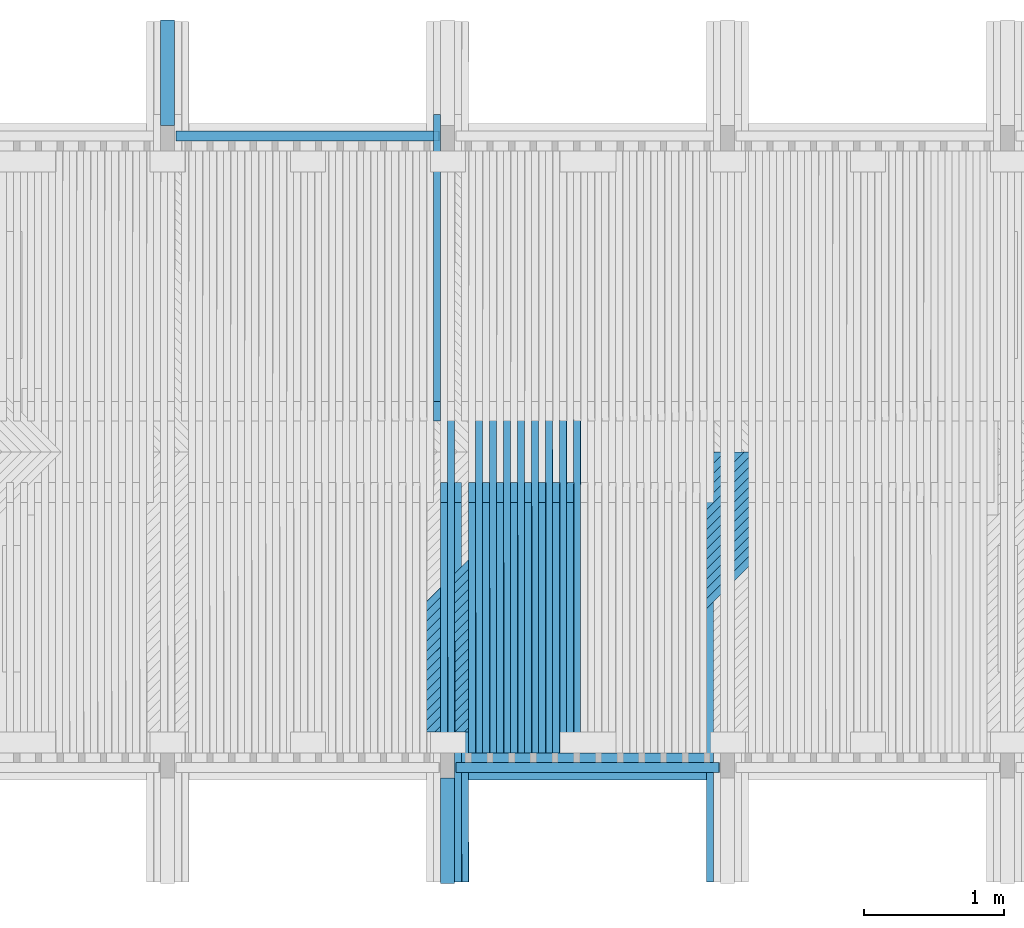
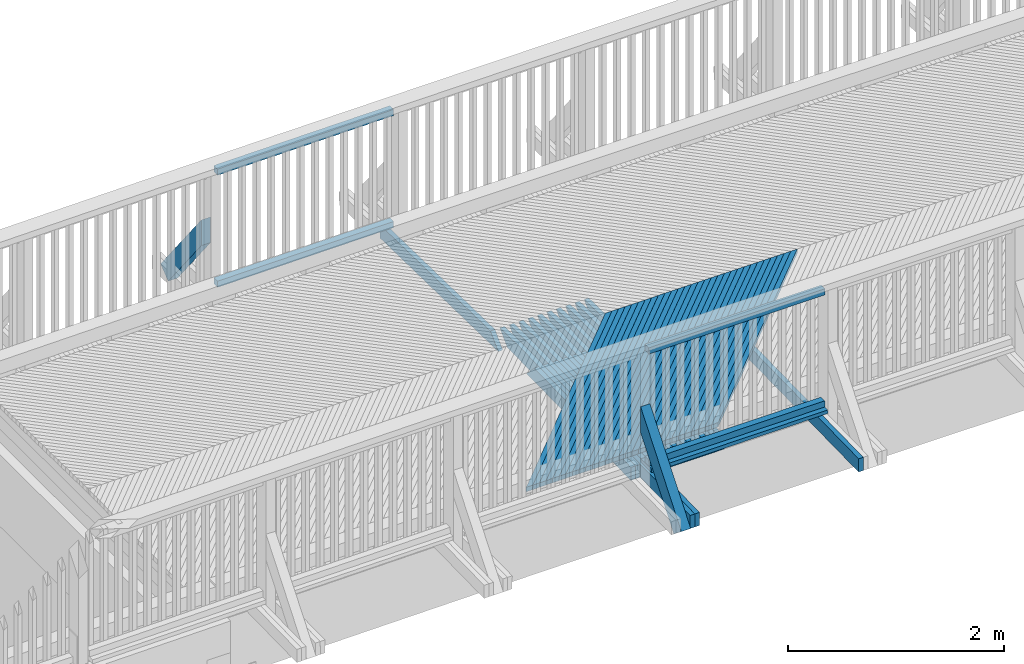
# One storey, part 22 of 53: 56 beams, 2 members.
"""IFC2X3 building model written with IfcOpenShell, lengths in millimetres."""

from ifc_helpers import new_model, si_unit, frame, origin_with_axes, place, context, subcontext, project, spatial, faceted_brep, material, type_object, element, save


model = new_model("IFC2X3")

# Units and contexts
model_context = context("Model", 3, precision=1e-05, world=origin_with_axes())
body_context = subcontext(model_context, "Body", "Model", "MODEL_VIEW")
ifc_project = project(units=[si_unit("LENGTHUNIT", "METRE", prefix="MILLI"), si_unit("AREAUNIT", "SQUARE_METRE"), si_unit("VOLUMEUNIT", "CUBIC_METRE"), si_unit("MASSUNIT", "GRAM", prefix="KILO"), si_unit("TIMEUNIT", "SECOND"), si_unit("PLANEANGLEUNIT", "RADIAN"), si_unit("SOLIDANGLEUNIT", "STERADIAN"), si_unit("THERMODYNAMICTEMPERATUREUNIT", "DEGREE_CELSIUS"), si_unit("LUMINOUSINTENSITYUNIT", "LUMEN")], contexts=[model_context])

# Site, building, storey
site_placement = place(None, origin_with_axes())
site = spatial("IfcSite", under=ifc_project, at=site_placement, Name="Undefined", CompositionType="ELEMENT")
building_placement = place(site_placement, origin_with_axes())
building = spatial("IfcBuilding", under=site, at=building_placement, Name="Undefined", CompositionType="ELEMENT")
storey_placement = place(building_placement, origin_with_axes())
storey = spatial("IfcBuildingStorey", under=building, at=storey_placement, Name="Undefined", CompositionType="ELEMENT", Elevation=0.0)

# Members
ifc_material = material(Name="TIMBER/Timber_Undefined")
member_type = type_object("IfcMemberType", Name="180*100", PredefinedType="NOTDEFINED")
member_1_placement = place(storey_placement, frame((2000.00641464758, 45378.7683991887, 2924.1196412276), z_axis=(0.0, 0.783926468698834, 0.620853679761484), x_axis=(-4.01699999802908e-06, -0.620853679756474, 0.78392646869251)))
element("IfcMember", 1, at=member_1_placement, inside=storey, type_object=member_type, material=ifc_material, Name="KAIDEPYLVÄS", ObjectType="180*100", context=body_context, shape_type="Brep", body=[
    faceted_brep([(0.0, 50.0, -89.9999999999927), (0.0, 50.0, 90.0), (1214.99440716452, 50.0, 90.0000000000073), (987.715792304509, 50.0, -89.9999999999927), (0.0, -49.9999999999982, 90.0000000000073), (1214.99480886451, -50.0, 90.0000000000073), (-3.63797880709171e-12, -49.9999999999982, -90.0), (987.716194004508, -49.9999999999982, -89.9999999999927)], [[[0, 1, 2, 3]], [[1, 4, 5, 2]], [[4, 6, 7, 5]], [[6, 0, 3, 7]], [[5, 7, 3, 2]], [[6, 4, 1, 0]]]),
])
member_2_placement = place(storey_placement, frame((4000.00641464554, 39351.2316008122, 2940.69175508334), z_axis=(0.0, -0.783926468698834, 0.620853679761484), x_axis=(-4.01699999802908e-06, 0.620853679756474, 0.783926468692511)))
element("IfcMember", 2, at=member_2_placement, inside=storey, type_object=member_type, material=ifc_material, Name="KAIDEPYLVÄS", ObjectType="180*100", context=body_context, shape_type="Brep", body=[
    faceted_brep([(0.0, 50.0, -89.9999999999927), (0.0, 50.0, 90.0), (1214.99480886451, 50.0000000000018, 90.0000000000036), (987.716194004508, 50.0, -89.9999999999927), (0.0, -49.9999999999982, 90.0000000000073), (1214.99440716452, -49.9999999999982, 90.0000000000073), (-3.63797880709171e-12, -49.9999999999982, -90.0), (987.715792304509, -49.9999999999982, -89.9999999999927)], [[[0, 1, 2, 3]], [[1, 4, 5, 2]], [[4, 6, 7, 5]], [[6, 0, 3, 7]], [[5, 7, 3, 2]], [[6, 4, 1, 0]]]),
])

# Beams
beam_type_1 = type_object("IfcBeamType", Name="70*70", PredefinedType="NOTDEFINED")
for number, where, z_axis, x_axis, name in (
    (3, (2060.3049307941, 44619.9900002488, 3233.55031617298), (0.0, 1.0, 0.0), (0.999961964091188, 0.0, 0.00872183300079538), "BEAM"),
    (4, (2060.3049307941, 44619.9900002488, 4498.55031617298), (0.0, 1.0, 0.0), (0.999961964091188, 0.0, 0.00872183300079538), "BEAM"),
):
    element("IfcBeam", number, at=place(storey_placement, frame(where, z_axis=z_axis, x_axis=x_axis)), inside=storey, type_object=beam_type_1, material=ifc_material, Name=name, ObjectType="70*70", context=body_context, shape_type="Brep", body=[
        faceted_brep([(-3.63797880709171e-12, 35.0000000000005, -35.0), (-3.63797880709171e-12, 35.0000000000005, 35.0), (1880.07227097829, 34.9999999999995, 35.0), (1880.07227097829, 34.9999999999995, -35.0), (-3.63797880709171e-12, -34.9999999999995, 35.0), (1880.07227097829, -35.0000000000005, 35.0), (-3.63797880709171e-12, -34.9999999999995, -35.0), (1880.07227097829, -35.0000000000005, -35.0)], [[[0, 1, 2, 3]], [[1, 4, 5, 2]], [[4, 6, 7, 5]], [[6, 0, 3, 7]], [[5, 7, 3, 2]], [[6, 4, 1, 0]]]),
    ])
for number, where, z_axis, x_axis, name in (
    (5, (4060.18309001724, 40110.0099315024, 3250.0866908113), (0.0, -1.0, 0.0), (0.999986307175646, 0.0, 0.00523311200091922), "BEAM"),
    (6, (4060.18309001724, 40110.0099315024, 4515.0866908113), (0.0, -1.0, 0.0), (0.999986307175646, 0.0, 0.00523311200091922), "BEAM"),
):
    element("IfcBeam", number, at=place(storey_placement, frame(where, z_axis=z_axis, x_axis=x_axis)), inside=storey, type_object=beam_type_1, material=ifc_material, Name=name, ObjectType="70*70", context=body_context, shape_type="Brep", body=[
        faceted_brep([(-3.63797880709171e-12, 35.0000000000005, -35.0), (-3.63797880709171e-12, 35.0000000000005, 35.0), (1880.02601672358, 34.9999999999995, 35.0), (1880.02601672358, 34.9999999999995, -35.0), (-3.63797880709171e-12, -34.9999999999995, 35.0), (1880.02601672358, -35.0000000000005, 35.0), (-3.63797880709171e-12, -34.9999999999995, -35.0), (1880.02601672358, -35.0000000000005, -35.0)], [[[0, 1, 2, 3]], [[1, 4, 5, 2]], [[4, 6, 7, 5]], [[6, 0, 3, 7]], [[5, 7, 3, 2]], [[6, 4, 1, 0]]]),
    ])
beam_type_2 = type_object("IfcBeamType", Name="195*40", PredefinedType="NOTDEFINED")
beam_1_placement = place(storey_placement, frame((4059.61460211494, 40117.5099315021, 3195.09221066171), z_axis=(0.0, -1.0, 0.0), x_axis=(0.999986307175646, 0.0, 0.00523311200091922)))
element("IfcBeam", 7, at=beam_1_placement, inside=storey, type_object=beam_type_2, material=ifc_material, Name="BEAM", ObjectType="195*40", context=body_context, shape_type="Brep", body=[
    faceted_brep([(0.0, 20.0, -97.5), (0.0, 20.0, 97.5), (1880.22135781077, 19.9999999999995, 97.5), (1880.22135781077, 19.9999999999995, -97.5), (3.63797880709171e-12, -20.0, 97.5), (1880.22135781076, -20.0000000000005, 97.5), (3.63797880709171e-12, -20.0, -97.5), (1880.22135781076, -20.0000000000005, -97.5)], [[[0, 1, 2, 3]], [[1, 4, 5, 2]], [[4, 6, 7, 5]], [[6, 0, 3, 7]], [[5, 7, 3, 2]], [[6, 4, 1, 0]]]),
])
beam_type_3 = type_object("IfcBeamType", Name="50*50", PredefinedType="NOTDEFINED")
for number, where, z_axis, x_axis, name in (
    (8, (6933.49514567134, 42364.5001003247, 3235.17752037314), (0.707136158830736, -0.706981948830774, -0.0116179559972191), (-0.707068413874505, -0.706948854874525, -0.016660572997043), "BEAM"),
    (9, (6862.77103065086, 42364.5001003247, 3235.04809435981), (0.707137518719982, -0.706981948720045, -0.0115348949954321), (-0.707066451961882, -0.706948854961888, -0.0167436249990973), "BEAM"),
    (10, (6792.04693132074, 42364.5001003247, 3234.91036104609), (0.707138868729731, -0.706981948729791, -0.0114518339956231), (-0.70706448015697, -0.706948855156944, -0.0168266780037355), "BEAM"),
    (11, (6721.32284865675, 42364.5001003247, 3234.76432043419), (0.707140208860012, -0.706981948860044, -0.0113687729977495), (-0.707062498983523, -0.706948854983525, -0.016909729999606), "BEAM"),
    (12, (6650.59878363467, 42364.5001003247, 3234.60997252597), (0.707141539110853, -0.706981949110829, -0.011285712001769), (-0.707060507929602, -0.706948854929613, -0.0169927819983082), "BEAM"),
    (13, (6579.8747372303, 42364.5001003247, 3234.44731732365), (0.707142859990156, -0.706981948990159, -0.0112026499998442), (-0.707058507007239, -0.706948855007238, -0.0170758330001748), "BEAM"),
    (14, (6509.1507104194, 42364.5001003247, 3234.27635482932), (0.707144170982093, -0.706981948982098, -0.0111195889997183), (-0.707056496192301, -0.706948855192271, -0.0171588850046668), "BEAM"),
    (15, (6438.42670417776, 42364.5001003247, 3234.09708504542), (0.707145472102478, -0.706981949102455, -0.0110365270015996), (-0.707054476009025, -0.706948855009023, -0.0172419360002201), "BEAM"),
    (16, (6367.70271948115, 42364.5001003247, 3233.9095079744), (0.707146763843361, -0.706981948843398, -0.0109534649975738), (-0.707052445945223, -0.706948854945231, -0.0173249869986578), "BEAM"),
    (17, (6296.97875730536, 42364.5001003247, 3233.71362361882), (0.707148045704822, -0.706981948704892, -0.0108704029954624), (-0.707050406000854, -0.706948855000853, -0.0174080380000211), "BEAM"),
    (18, (6226.25481862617, 42364.5001003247, 3233.5094319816), (0.70714931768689, -0.706981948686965, -0.0107873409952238), (-0.707048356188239, -0.706948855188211, -0.0174910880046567), "BEAM"),
    (19, (6155.53090441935, 42364.5001003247, 3233.29693306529), (0.707150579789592, -0.706981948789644, -0.0107042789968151), (-0.707046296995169, -0.706948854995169, -0.01757413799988), "BEAM"),
    (20, (6084.80701566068, 42364.5001003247, 3233.07612687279), (0.707151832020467, -0.706981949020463, -0.0106212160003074), (-0.70704422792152, -0.706948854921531, -0.0176571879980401), "BEAM"),
    (21, (6014.08315332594, 42364.5001003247, 3232.84701340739), (0.707153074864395, -0.706981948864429, -0.010538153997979), (-0.707042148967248, -0.706948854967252, -0.0177402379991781), "BEAM"),
    (22, (5943.35931839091, 42364.5001003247, 3232.6095926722), (0.707154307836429, -0.70698194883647, -0.0104550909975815), (-0.707040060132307, -0.706948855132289, -0.0178232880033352), "BEAM"),
    (23, (5872.63551183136, 42364.5001003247, 3232.36386467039), (0.707155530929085, -0.706981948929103, -0.0103720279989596), (-0.707037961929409, -0.706948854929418, -0.0179063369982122), "BEAM"),
    (24, (5801.91173462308, 42364.5001003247, 3232.10982940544), (0.707156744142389, -0.706981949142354, -0.0102889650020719), (-0.707035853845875, -0.706948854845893, -0.0179893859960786), "BEAM"),
    (25, (5731.18798774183, 42364.5001003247, 3231.84748688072), (0.707157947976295, -0.706981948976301, -0.010205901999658), (-0.707033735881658, -0.706948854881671, -0.0180724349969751), "BEAM"),
    (26, (5660.46427216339, 42364.5001003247, 3231.57683709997), (0.707159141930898, -0.706981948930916, -0.0101228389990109), (-0.707031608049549, -0.706948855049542, -0.0181554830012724), "BEAM"),
    (27, (5589.74058886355, 42364.5001003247, 3231.29788006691), (0.707160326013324, -0.706981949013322, -0.0100397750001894), (-0.707029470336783, -0.706948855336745, -0.0182385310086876), "BEAM"),
    (28, (5519.01693881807, 42364.5001003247, 3231.01061578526), (0.707161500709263, -0.706981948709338, -0.00995671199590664), (-0.707027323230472, -0.706948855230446, -0.0183215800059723), "BEAM"),
    (29, (5448.29332300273, 42364.5001003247, 3230.71504425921), (0.707162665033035, -0.706981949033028, -0.00987364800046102), (-0.707025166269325, -0.706948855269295, -0.0184046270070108), "BEAM"),
    (30, (5377.5697423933, 42364.5001003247, 3230.41116549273), (0.707163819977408, -0.706981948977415, -0.00979058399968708), (-0.707022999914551, -0.706948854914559, -0.0184876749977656), "BEAM"),
    (31, (5306.84619796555, 42364.5001003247, 3230.09897948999), (0.707164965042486, -0.706981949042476, -0.00970752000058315), (-0.707020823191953, -0.706948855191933, -0.0185707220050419), "BEAM"),
    (32, (5236.12269069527, 42364.5001003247, 3229.77848625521), (0.707166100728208, -0.70698194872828, -0.00962445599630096), (-0.707018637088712, -0.706948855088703, -0.0186537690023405), "BEAM"),
    (33, (5165.39922155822, 42364.5001003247, 3229.44968579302), (0.707167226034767, -0.706981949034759, -0.00954139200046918), (-0.707016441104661, -0.706948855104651, -0.0187368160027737), "BEAM"),
    (34, (5094.67579153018, 42364.5001003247, 3229.11257810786), (0.707168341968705, -0.706981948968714, -0.00945832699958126), (-0.707014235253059, -0.706948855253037, -0.0188198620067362), "BEAM"),
    (35, (5023.95240158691, 42364.5001003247, 3228.76716320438), (0.707169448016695, -0.706981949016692, -0.00937526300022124), (-0.70701202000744, -0.706948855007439, -0.018902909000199), "BEAM"),
    (36, (4953.22905270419, 42364.5001003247, 3228.41344108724), (0.707170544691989, -0.706981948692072, -0.00929219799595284), (-0.70700979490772, -0.706948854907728, -0.018985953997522), "BEAM"),
):
    element("IfcBeam", number, at=place(storey_placement, frame(where, z_axis=z_axis, x_axis=x_axis)), inside=storey, type_object=beam_type_3, material=ifc_material, Name=name, ObjectType="50*50", context=body_context, shape_type="Brep", body=[
        faceted_brep([(24.8942457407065, 25.0, -25.0), (-25.0086637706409, 24.9999999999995, 24.9999999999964), (2804.34067830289, 25.0, 25.0000000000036), (2854.34301907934, 24.9999999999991, -25.0000000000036), (-26.4222658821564, -25.0000000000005, 25.0000000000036), (2802.92643296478, -25.0, 25.0), (23.4806436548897, -25.0, -25.0), (2852.92877373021, -25.0000000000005, -25.0000000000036)], [[[0, 1, 2, 3]], [[1, 4, 5, 2]], [[4, 6, 7, 5]], [[6, 0, 3, 7]], [[5, 7, 3, 2]], [[6, 4, 1, 0]]]),
    ])
beam_type_4 = type_object("IfcBeamType", Name="150*50", PredefinedType="NOTDEFINED")
beam_2_placement = place(storey_placement, frame((4125.55027576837, 39292.7893476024, 3062.2023750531), z_axis=(-0.00643456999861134, -0.0199960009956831, 0.999779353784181), x_axis=(-0.000130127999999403, 0.999800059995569, 0.0199955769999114)))
element("IfcBeam", 37, at=beam_2_placement, inside=storey, type_object=beam_type_4, material=ifc_material, Name="BEAM", ObjectType="150*50", context=body_context, shape_type="Brep", body=[
    faceted_brep([(1.28420651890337e-08, -24.9999999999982, -74.9999999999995), (-1.28347892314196e-08, -24.9999999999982, 75.0), (-1.28347892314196e-08, 25.0, 75.0), (1.28420651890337e-08, 25.0000000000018, -75.0), (3298.90497884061, 24.9999999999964, -74.9999999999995), (3298.90492234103, -25.0, -74.9999999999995), (3434.49245887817, -25.0, 60.5875365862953), (3074.32503029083, -25.0, 75.0000000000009), (3074.32509060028, 24.9999999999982, 75.0), (3434.49251531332, 24.9999999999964, 60.5875365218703)], [[[0, 1, 2, 3]], [[0, 3, 4, 5]], [[1, 0, 5, 6, 7]], [[2, 1, 7, 8]], [[4, 3, 2, 8, 9]], [[5, 4, 9, 6]], [[8, 7, 6, 9]]]),
])
for number, where, z_axis, x_axis, name in (
    (38, (4075.53352582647, 39292.7893321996, 3061.88046641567), (-0.00660068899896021, -0.01999600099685, 0.999778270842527), (-0.000133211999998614, 0.999800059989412, 0.0199955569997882), "BEAM"),
    (39, (5875.30203746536, 39292.7893167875, 3070.92534624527), (-0.00361070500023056, -0.0199960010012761, 0.999793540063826), (-7.09809999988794e-05, 0.999800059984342, 0.0199958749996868), "BEAM"),
):
    element("IfcBeam", number, at=place(storey_placement, frame(where, z_axis=z_axis, x_axis=x_axis)), inside=storey, type_object=beam_type_4, material=ifc_material, Name=name, ObjectType="150*50", context=body_context, shape_type="Brep", body=[
        faceted_brep([(1.28420651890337e-08, -24.9999999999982, -74.9999999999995), (-1.28347892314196e-08, -24.9999999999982, 75.0), (-1.28347892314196e-08, 25.0, 75.0), (1.28420651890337e-08, 25.0000000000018, -75.0), (2852.32648139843, -25.0000000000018, -75.0000000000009), (2713.86938248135, -25.0000000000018, 74.9999999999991), (2713.86933800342, 25.0000000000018, 75.0), (2852.32643692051, 24.9999999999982, -75.0000000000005)], [[[0, 1, 2, 3]], [[1, 0, 4, 5]], [[2, 1, 5, 6]], [[3, 2, 6, 7]], [[0, 3, 7, 4]], [[4, 7, 6, 5]]]),
    ])
beam_3_placement = place(storey_placement, frame((4875.76404356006, 40216.5046076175, 3085.04044053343), z_axis=(-0.00527138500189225, -0.0199960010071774, 0.999786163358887), x_axis=(-0.000105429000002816, 0.999800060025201, 0.0199957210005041)))
element("IfcBeam", 40, at=beam_3_placement, inside=storey, type_object=beam_type_4, material=ifc_material, Name="BEAM", ObjectType="150*50", context=body_context, shape_type="Brep", body=[
    faceted_brep([(1.28420651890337e-08, -24.9999999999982, -74.9999999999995), (-1.28347892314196e-08, -24.9999999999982, 75.0), (-1.28347892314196e-08, 25.0, 75.0), (1.28420651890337e-08, 25.0000000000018, -75.0), (1928.42646353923, -25.0000000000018, -75.0), (1789.96936433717, -25.0000000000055, 74.9999999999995), (1789.96936408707, 24.9999999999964, 75.0000000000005), (1928.42646328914, 24.9999999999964, -74.9999999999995)], [[[0, 1, 2, 3]], [[1, 0, 4, 5]], [[2, 1, 5, 6]], [[3, 2, 6, 7]], [[0, 3, 7, 4]], [[7, 6, 5, 4]]]),
])
beam_4_placement = place(storey_placement, frame((4925.78342438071, 40216.5046076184, 3085.29585887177), z_axis=(-0.00510526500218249, -0.0199960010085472, 0.999787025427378), x_axis=(-0.000102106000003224, 0.999800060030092, 0.0199957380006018)))
element("IfcBeam", 41, at=beam_4_placement, inside=storey, type_object=beam_type_4, material=ifc_material, Name="BEAM", ObjectType="150*50", context=body_context, shape_type="Brep", body=[
    faceted_brep([(1.28420651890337e-08, -24.9999999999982, -74.9999999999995), (-1.28347892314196e-08, -24.9999999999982, 75.0), (-1.28347892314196e-08, 25.0, 75.0), (1.28420651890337e-08, 25.0000000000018, -75.0), (2375.00494422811, 25.0000000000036, -75.0), (2375.0049444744, -24.9999999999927, -74.9999999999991), (2510.5924871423, -24.9999999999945, 60.5875430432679), (2150.42514405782, -24.9999999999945, 75.0), (2150.42515052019, 25.0000000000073, 75.0), (2510.59248715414, 25.0000000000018, 60.5875433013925)], [[[0, 1, 2, 3]], [[0, 3, 4, 5]], [[1, 0, 5, 6, 7]], [[2, 1, 7, 8]], [[4, 3, 2, 8, 9]], [[5, 4, 9, 6]], [[6, 9, 8, 7]]]),
])
beam_5_placement = place(storey_placement, frame((4775.74540074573, 40216.5046076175, 3084.51302271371), z_axis=(-0.00543750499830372, -0.0199960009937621, 0.999785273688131), x_axis=(-0.000108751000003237, 0.99980006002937, 0.0199957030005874)))
element("IfcBeam", 42, at=beam_5_placement, inside=storey, type_object=beam_type_4, material=ifc_material, Name="BEAM", ObjectType="150*50", context=body_context, shape_type="Brep", body=[
    faceted_brep([(1.28420651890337e-08, -24.9999999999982, -74.9999999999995), (-1.28347892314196e-08, -24.9999999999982, 75.0), (-1.28347892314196e-08, 25.0, 75.0), (1.28420651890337e-08, 25.0000000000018, -75.0), (1928.42646353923, -25.0000000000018, -75.0), (1789.96936433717, -25.0000000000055, 74.9999999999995), (1789.96936408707, 24.9999999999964, 75.0000000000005), (1928.42646328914, 24.9999999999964, -74.9999999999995)], [[[0, 1, 2, 3]], [[1, 0, 4, 5]], [[2, 1, 5, 6]], [[3, 2, 6, 7]], [[0, 3, 7, 4]], [[7, 6, 5, 4]]]),
])
beam_6_placement = place(storey_placement, frame((4825.7647384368, 40216.5046076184, 3084.77675203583), z_axis=(-0.00527138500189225, -0.0199960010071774, 0.999786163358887), x_axis=(-0.000105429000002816, 0.999800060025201, 0.0199957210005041)))
element("IfcBeam", 43, at=beam_6_placement, inside=storey, type_object=beam_type_4, material=ifc_material, Name="BEAM", ObjectType="150*50", context=body_context, shape_type="Brep", body=[
    faceted_brep([(1.28420651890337e-08, -24.9999999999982, -74.9999999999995), (-1.28347892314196e-08, -24.9999999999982, 75.0), (-1.28347892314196e-08, 25.0, 75.0), (1.28420651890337e-08, 25.0000000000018, -75.0), (2375.00494422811, 25.0000000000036, -75.0), (2375.0049444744, -24.9999999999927, -74.9999999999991), (2510.5924871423, -24.9999999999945, 60.5875430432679), (2150.42514405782, -24.9999999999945, 75.0), (2150.42515052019, 25.0000000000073, 75.0), (2510.59248715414, 25.0000000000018, 60.5875433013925)], [[[0, 1, 2, 3]], [[0, 3, 4, 5]], [[1, 0, 5, 6, 7]], [[2, 1, 7, 8]], [[4, 3, 2, 8, 9]], [[5, 4, 9, 6]], [[6, 9, 8, 7]]]),
])
beam_7_placement = place(storey_placement, frame((4675.72684694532, 40216.5046076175, 3083.96898626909), z_axis=(-0.0056036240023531, -0.0199960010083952, 0.999784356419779), x_axis=(-0.000112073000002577, 0.999800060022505, 0.0199956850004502)))
element("IfcBeam", 44, at=beam_7_placement, inside=storey, type_object=beam_type_4, material=ifc_material, Name="BEAM", ObjectType="150*50", context=body_context, shape_type="Brep", body=[
    faceted_brep([(1.28420651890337e-08, -24.9999999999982, -74.9999999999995), (-1.28347892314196e-08, -24.9999999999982, 75.0), (-1.28347892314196e-08, 25.0, 75.0), (1.28420651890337e-08, 25.0000000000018, -75.0), (1928.42646353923, -25.0000000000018, -75.0), (1789.96936433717, -25.0000000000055, 74.9999999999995), (1789.96936408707, 24.9999999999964, 75.0000000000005), (1928.42646328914, 24.9999999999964, -74.9999999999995)], [[[0, 1, 2, 3]], [[1, 0, 4, 5]], [[2, 1, 5, 6]], [[3, 2, 6, 7]], [[0, 3, 7, 4]], [[7, 6, 5, 4]]]),
])
beam_8_placement = place(storey_placement, frame((4725.7461401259, 40216.5046076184, 3084.24102656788), z_axis=(-0.00543750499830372, -0.0199960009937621, 0.999785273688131), x_axis=(-0.000108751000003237, 0.99980006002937, 0.0199957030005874)))
element("IfcBeam", 45, at=beam_8_placement, inside=storey, type_object=beam_type_4, material=ifc_material, Name="BEAM", ObjectType="150*50", context=body_context, shape_type="Brep", body=[
    faceted_brep([(1.28420651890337e-08, -24.9999999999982, -74.9999999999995), (-1.28347892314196e-08, -24.9999999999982, 75.0), (-1.28347892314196e-08, 25.0, 75.0), (1.28420651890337e-08, 25.0000000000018, -75.0), (2375.00494422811, 25.0000000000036, -75.0), (2375.0049444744, -24.9999999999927, -74.9999999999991), (2510.5924871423, -24.9999999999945, 60.5875430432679), (2150.42514405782, -24.9999999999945, 75.0), (2150.42515052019, 25.0000000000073, 75.0), (2510.59248715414, 25.0000000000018, 60.5875433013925)], [[[0, 1, 2, 3]], [[0, 3, 4, 5]], [[1, 0, 5, 6, 7]], [[2, 1, 7, 8]], [[4, 3, 2, 8, 9]], [[5, 4, 9, 6]], [[6, 9, 8, 7]]]),
])
beam_9_placement = place(storey_placement, frame((4575.70838492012, 40216.5046076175, 3083.40833121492), z_axis=(-0.00576974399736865, -0.0199960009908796, 0.999783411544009), x_axis=(-0.00011539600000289, 0.999800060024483, 0.0199956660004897)))
element("IfcBeam", 46, at=beam_9_placement, inside=storey, type_object=beam_type_4, material=ifc_material, Name="BEAM", ObjectType="150*50", context=body_context, shape_type="Brep", body=[
    faceted_brep([(1.28420651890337e-08, -24.9999999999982, -74.9999999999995), (-1.28347892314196e-08, -24.9999999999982, 75.0), (-1.28347892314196e-08, 25.0, 75.0), (1.28420651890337e-08, 25.0000000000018, -75.0), (1928.42646353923, -25.0000000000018, -75.0), (1789.96936433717, -25.0000000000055, 74.9999999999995), (1789.96936408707, 24.9999999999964, 75.0000000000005), (1928.42646328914, 24.9999999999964, -74.9999999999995)], [[[0, 1, 2, 3]], [[1, 0, 4, 5]], [[2, 1, 5, 6]], [[3, 2, 6, 7]], [[0, 3, 7, 4]], [[7, 6, 5, 4]]]),
])
beam_10_placement = place(storey_placement, frame((4625.72763220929, 40216.5046076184, 3083.68868248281), z_axis=(-0.0056036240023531, -0.0199960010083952, 0.999784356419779), x_axis=(-0.000112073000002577, 0.999800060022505, 0.0199956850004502)))
element("IfcBeam", 47, at=beam_10_placement, inside=storey, type_object=beam_type_4, material=ifc_material, Name="BEAM", ObjectType="150*50", context=body_context, shape_type="Brep", body=[
    faceted_brep([(1.28420651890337e-08, -24.9999999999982, -74.9999999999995), (-1.28347892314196e-08, -24.9999999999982, 75.0), (-1.28347892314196e-08, 25.0, 75.0), (1.28420651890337e-08, 25.0000000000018, -75.0), (2375.00494422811, 25.0000000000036, -75.0), (2375.0049444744, -24.9999999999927, -74.9999999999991), (2510.5924871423, -24.9999999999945, 60.5875430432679), (2150.42514405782, -24.9999999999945, 75.0), (2150.42515052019, 25.0000000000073, 75.0), (2510.59248715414, 25.0000000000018, 60.5875433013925)], [[[0, 1, 2, 3]], [[0, 3, 4, 5]], [[1, 0, 5, 6, 7]], [[2, 1, 7, 8]], [[4, 3, 2, 8, 9]], [[5, 4, 9, 6]], [[6, 9, 8, 7]]]),
])
beam_11_placement = place(storey_placement, frame((4475.69001743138, 40216.5046076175, 3082.83105756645), z_axis=(-0.00593586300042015, -0.0199960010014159, 0.999782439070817), x_axis=(-0.00011871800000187, 0.999800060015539, 0.0199956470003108)))
element("IfcBeam", 48, at=beam_11_placement, inside=storey, type_object=beam_type_4, material=ifc_material, Name="BEAM", ObjectType="150*50", context=body_context, shape_type="Brep", body=[
    faceted_brep([(1.28420651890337e-08, -24.9999999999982, -74.9999999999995), (-1.28347892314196e-08, -24.9999999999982, 75.0), (-1.28347892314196e-08, 25.0, 75.0), (1.28420651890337e-08, 25.0000000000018, -75.0), (1928.42646353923, -25.0000000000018, -75.0), (1789.96936433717, -25.0000000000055, 74.9999999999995), (1789.96936408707, 24.9999999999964, 75.0000000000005), (1928.42646328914, 24.9999999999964, -74.9999999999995)], [[[0, 1, 2, 3]], [[1, 0, 4, 5]], [[2, 1, 5, 6]], [[3, 2, 6, 7]], [[0, 3, 7, 4]], [[7, 6, 5, 4]]]),
])
beam_12_placement = place(storey_placement, frame((4525.70921744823, 40216.5046076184, 3083.11971979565), z_axis=(-0.00576974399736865, -0.0199960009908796, 0.999783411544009), x_axis=(-0.00011539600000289, 0.999800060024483, 0.0199956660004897)))
element("IfcBeam", 49, at=beam_12_placement, inside=storey, type_object=beam_type_4, material=ifc_material, Name="BEAM", ObjectType="150*50", context=body_context, shape_type="Brep", body=[
    faceted_brep([(1.28420651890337e-08, -24.9999999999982, -74.9999999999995), (-1.28347892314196e-08, -24.9999999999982, 75.0), (-1.28347892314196e-08, 25.0, 75.0), (1.28420651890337e-08, 25.0000000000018, -75.0), (2375.00494422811, 25.0000000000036, -75.0), (2375.0049444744, -24.9999999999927, -74.9999999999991), (2510.5924871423, -24.9999999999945, 60.5875430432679), (2150.42514405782, -24.9999999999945, 75.0), (2150.42515052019, 25.0000000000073, 75.0), (2510.59248715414, 25.0000000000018, 60.5875433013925)], [[[0, 1, 2, 3]], [[0, 3, 4, 5]], [[1, 0, 5, 6, 7]], [[2, 1, 7, 8]], [[4, 3, 2, 8, 9]], [[5, 4, 9, 6]], [[6, 9, 8, 7]]]),
])
beam_13_placement = place(storey_placement, frame((4375.67174724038, 40216.5046076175, 3082.23716533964), z_axis=(-0.00610198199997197, -0.0199960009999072, 0.999781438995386), x_axis=(-0.000122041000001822, 0.999800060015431, 0.0199956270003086)))
element("IfcBeam", 50, at=beam_13_placement, inside=storey, type_object=beam_type_4, material=ifc_material, Name="BEAM", ObjectType="150*50", context=body_context, shape_type="Brep", body=[
    faceted_brep([(1.28420651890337e-08, -24.9999999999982, -74.9999999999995), (-1.28347892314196e-08, -24.9999999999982, 75.0), (-1.28347892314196e-08, 25.0, 75.0), (1.28420651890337e-08, 25.0000000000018, -75.0), (1928.42646353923, -25.0000000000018, -75.0), (1789.96936433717, -25.0000000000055, 74.9999999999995), (1789.96936408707, 24.9999999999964, 75.0000000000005), (1928.42646328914, 24.9999999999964, -74.9999999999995)], [[[0, 1, 2, 3]], [[1, 0, 4, 5]], [[2, 1, 5, 6]], [[3, 2, 6, 7]], [[0, 3, 7, 4]], [[7, 6, 5, 4]]]),
])
beam_14_placement = place(storey_placement, frame((4425.690898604, 40216.5046076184, 3082.53413852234), z_axis=(-0.00593586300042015, -0.0199960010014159, 0.999782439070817), x_axis=(-0.00011871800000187, 0.999800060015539, 0.0199956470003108)))
element("IfcBeam", 51, at=beam_14_placement, inside=storey, type_object=beam_type_4, material=ifc_material, Name="BEAM", ObjectType="150*50", context=body_context, shape_type="Brep", body=[
    faceted_brep([(1.28420651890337e-08, -24.9999999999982, -74.9999999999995), (-1.28347892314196e-08, -24.9999999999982, 75.0), (-1.28347892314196e-08, 25.0, 75.0), (1.28420651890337e-08, 25.0000000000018, -75.0), (2375.00494422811, 25.0000000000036, -75.0), (2375.0049444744, -24.9999999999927, -74.9999999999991), (2510.5924871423, -24.9999999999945, 60.5875430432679), (2150.42514405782, -24.9999999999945, 75.0), (2150.42515052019, 25.0000000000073, 75.0), (2510.59248715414, 25.0000000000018, 60.5875433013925)], [[[0, 1, 2, 3]], [[0, 3, 4, 5]], [[1, 0, 5, 6, 7]], [[2, 1, 7, 8]], [[4, 3, 2, 8, 9]], [[5, 4, 9, 6]], [[6, 9, 8, 7]]]),
])
beam_15_placement = place(storey_placement, frame((4275.65357710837, 40216.5046076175, 3081.62665455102), z_axis=(-0.00626810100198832, -0.0199960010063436, 0.999780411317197), x_axis=(-0.000125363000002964, 0.999800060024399, 0.0199956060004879)))
element("IfcBeam", 52, at=beam_15_placement, inside=storey, type_object=beam_type_4, material=ifc_material, Name="BEAM", ObjectType="150*50", context=body_context, shape_type="Brep", body=[
    faceted_brep([(1.28420651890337e-08, -24.9999999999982, -74.9999999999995), (-1.28347892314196e-08, -24.9999999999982, 75.0), (-1.28347892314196e-08, 25.0, 75.0), (1.28420651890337e-08, 25.0000000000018, -75.0), (1928.42646353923, -25.0000000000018, -75.0), (1789.96936433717, -25.0000000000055, 74.9999999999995), (1789.96936408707, 24.9999999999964, 75.0000000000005), (1928.42646328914, 24.9999999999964, -74.9999999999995)], [[[0, 1, 2, 3]], [[1, 0, 4, 5]], [[2, 1, 5, 6]], [[3, 2, 6, 7]], [[0, 3, 7, 4]], [[7, 6, 5, 4]]]),
])
beam_16_placement = place(storey_placement, frame((4325.67267843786, 40216.5046076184, 3081.93193867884), z_axis=(-0.00610198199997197, -0.0199960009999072, 0.999781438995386), x_axis=(-0.000122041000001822, 0.999800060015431, 0.0199956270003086)))
element("IfcBeam", 53, at=beam_16_placement, inside=storey, type_object=beam_type_4, material=ifc_material, Name="BEAM", ObjectType="150*50", context=body_context, shape_type="Brep", body=[
    faceted_brep([(1.28420651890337e-08, -24.9999999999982, -74.9999999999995), (-1.28347892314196e-08, -24.9999999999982, 75.0), (-1.28347892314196e-08, 25.0, 75.0), (1.28420651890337e-08, 25.0000000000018, -75.0), (2375.00494422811, 25.0000000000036, -75.0), (2375.0049444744, -24.9999999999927, -74.9999999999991), (2510.5924871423, -24.9999999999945, 60.5875430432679), (2150.42514405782, -24.9999999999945, 75.0), (2150.42515052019, 25.0000000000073, 75.0), (2510.59248715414, 25.0000000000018, 60.5875433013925)], [[[0, 1, 2, 3]], [[0, 3, 4, 5]], [[1, 0, 5, 6, 7]], [[2, 1, 7, 8]], [[4, 3, 2, 8, 9]], [[5, 4, 9, 6]], [[6, 9, 8, 7]]]),
])
beam_17_placement = place(storey_placement, frame((4175.63550979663, 40216.5046076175, 3080.99952521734), z_axis=(-0.00643456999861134, -0.0199960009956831, 0.999779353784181), x_axis=(-0.000128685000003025, 0.999800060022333, 0.0199955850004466)))
element("IfcBeam", 54, at=beam_17_placement, inside=storey, type_object=beam_type_4, material=ifc_material, Name="BEAM", ObjectType="150*50", context=body_context, shape_type="Brep", body=[
    faceted_brep([(1.28420651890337e-08, -24.9999999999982, -74.9999999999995), (-1.28347892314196e-08, -24.9999999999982, 75.0), (-1.28347892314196e-08, 25.0, 75.0), (1.28420651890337e-08, 25.0000000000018, -75.0), (1928.42646353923, -25.0000000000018, -75.0), (1789.96936433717, -25.0000000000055, 74.9999999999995), (1789.96936408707, 24.9999999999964, 75.0000000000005), (1928.42646328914, 24.9999999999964, -74.9999999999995)], [[[0, 1, 2, 3]], [[1, 0, 4, 5]], [[2, 1, 5, 6]], [[3, 2, 6, 7]], [[0, 3, 7, 4]], [[7, 6, 5, 4]]]),
])
beam_18_placement = place(storey_placement, frame((4225.65455971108, 40216.5046076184, 3081.31312028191), z_axis=(-0.00626810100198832, -0.0199960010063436, 0.999780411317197), x_axis=(-0.000125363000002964, 0.999800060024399, 0.0199956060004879)))
element("IfcBeam", 55, at=beam_18_placement, inside=storey, type_object=beam_type_4, material=ifc_material, Name="BEAM", ObjectType="150*50", context=body_context, shape_type="Brep", body=[
    faceted_brep([(1.28420651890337e-08, -24.9999999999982, -74.9999999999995), (-1.28347892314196e-08, -24.9999999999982, 75.0), (-1.28347892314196e-08, 25.0, 75.0), (1.28420651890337e-08, 25.0000000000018, -75.0), (2375.00494422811, 25.0000000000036, -75.0), (2375.0049444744, -24.9999999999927, -74.9999999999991), (2510.5924871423, -24.9999999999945, 60.5875430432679), (2150.42514405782, -24.9999999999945, 75.0), (2150.42515052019, 25.0000000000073, 75.0), (2510.59248715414, 25.0000000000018, 60.5875433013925)], [[[0, 1, 2, 3]], [[0, 3, 4, 5]], [[1, 0, 5, 6, 7]], [[2, 1, 7, 8]], [[4, 3, 2, 8, 9]], [[5, 4, 9, 6]], [[6, 9, 8, 7]]]),
])
beam_19_placement = place(storey_placement, frame((3975.59969467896, 40216.5046076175, 3079.69541098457), z_axis=(-0.00676680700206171, -0.019996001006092, 0.999777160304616), x_axis=(-0.000135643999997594, 0.999800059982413, 0.0199955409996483)))
element("IfcBeam", 56, at=beam_19_placement, inside=storey, type_object=beam_type_4, material=ifc_material, Name="BEAM", ObjectType="150*50", context=body_context, shape_type="Brep", body=[
    faceted_brep([(1.28420651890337e-08, -24.9999999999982, -74.9999999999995), (-1.28347892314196e-08, -24.9999999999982, 75.0), (-1.28347892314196e-08, 25.0, 75.0), (1.28420651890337e-08, 25.0000000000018, -75.0), (1928.42646353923, -25.0000000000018, -75.0), (1789.96936433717, -25.0000000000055, 74.9999999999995), (1789.96936408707, 24.9999999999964, 75.0000000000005), (1928.42646328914, 24.9999999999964, -74.9999999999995)], [[[0, 1, 2, 3]], [[1, 0, 4, 5]], [[2, 1, 5, 6]], [[3, 2, 6, 7]], [[0, 3, 7, 4]], [[7, 6, 5, 4]]]),
])
beam_20_placement = place(storey_placement, frame((4025.61863762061, 40216.5046076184, 3080.02562789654), z_axis=(-0.00660068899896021, -0.01999600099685, 0.999778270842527), x_axis=(-0.000132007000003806, 0.999800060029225, 0.0199955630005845)))
element("IfcBeam", 57, at=beam_20_placement, inside=storey, type_object=beam_type_4, material=ifc_material, Name="BEAM", ObjectType="150*50", context=body_context, shape_type="Brep", body=[
    faceted_brep([(1.28420651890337e-08, -24.9999999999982, -74.9999999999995), (-1.28347892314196e-08, -24.9999999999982, 75.0), (-1.28347892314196e-08, 25.0, 75.0), (1.28420651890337e-08, 25.0000000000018, -75.0), (2375.00494422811, 25.0000000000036, -75.0), (2375.0049444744, -24.9999999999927, -74.9999999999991), (2510.5924871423, -24.9999999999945, 60.5875430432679), (2150.42514405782, -24.9999999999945, 75.0), (2150.42515052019, 25.0000000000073, 75.0), (2510.59248715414, 25.0000000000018, 60.5875433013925)], [[[0, 1, 2, 3]], [[0, 3, 4, 5]], [[1, 0, 5, 6, 7]], [[2, 1, 7, 8]], [[4, 3, 2, 8, 9]], [[5, 4, 9, 6]], [[6, 9, 8, 7]]]),
])
beam_21_placement = place(storey_placement, frame((3925.42477816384, 44771.443807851, 3074.19674304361), z_axis=(-0.00676680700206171, 0.019996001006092, 0.999777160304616), x_axis=(-0.000135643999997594, -0.999800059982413, 0.0199955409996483)))
element("IfcBeam", 58, at=beam_21_placement, inside=storey, type_object=beam_type_4, material=ifc_material, Name="BEAM", ObjectType="150*50", context=body_context, shape_type="Brep", body=[
    faceted_brep([(1.28420651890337e-08, -24.9999999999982, -74.9999999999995), (-1.28347892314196e-08, -24.9999999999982, 75.0), (-1.28347892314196e-08, 25.0, 75.0), (1.28420651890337e-08, 25.0000000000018, -75.0), (2186.42646645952, 24.9999999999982, -74.9999999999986), (2186.42645112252, -25.0000000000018, -74.9999999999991), (2047.96935228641, -25.0000000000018, 75.0000000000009), (2047.96936762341, 24.9999999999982, 75.0000000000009)], [[[0, 1, 2, 3]], [[0, 3, 4, 5]], [[1, 0, 5, 6]], [[2, 1, 6, 7]], [[3, 2, 7, 4]], [[5, 4, 7, 6]]]),
])

save(model, "model.ifc")
